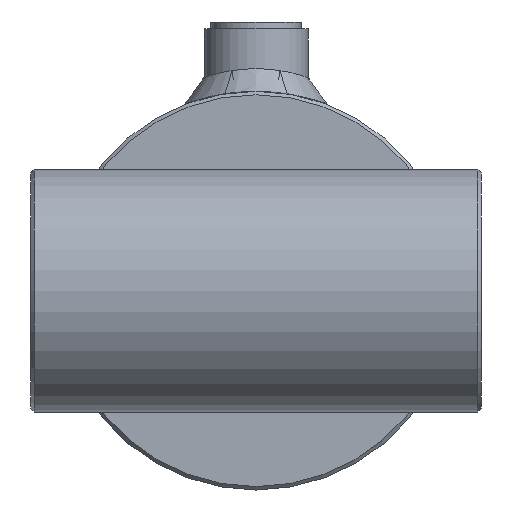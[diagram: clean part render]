
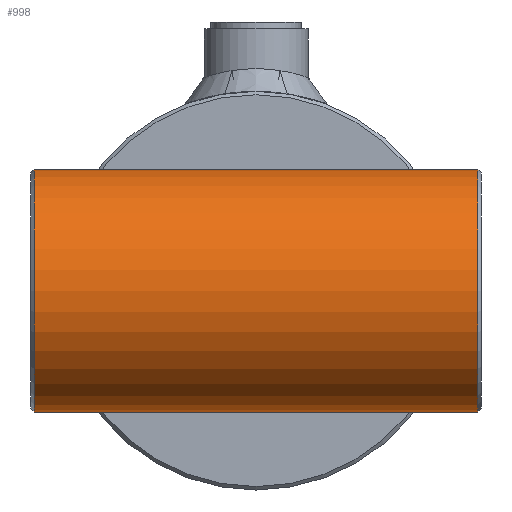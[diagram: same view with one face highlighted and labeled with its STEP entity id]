
A CAD part, left-side view. The second image highlights one B-rep face of the part: STEP entity #998.
In plain terms, the highlighted cylindrical face has radius 35 mm (diameter 70 mm), a full revolution.
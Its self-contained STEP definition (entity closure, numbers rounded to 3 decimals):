
#998 = ADVANCED_FACE( '', ( #1916, #1917 ), #1918, .T. );
#1916 = FACE_OUTER_BOUND( '', #5177, .T. );
#1917 = FACE_OUTER_BOUND( '', #5178, .T. );
#1918 = CYLINDRICAL_SURFACE( '', #5179, 35. );
#5177 = EDGE_LOOP( '', ( #10760 ) );
#5178 = EDGE_LOOP( '', ( #10761 ) );
#5179 = AXIS2_PLACEMENT_3D( '', #10762, #10763, #10764 );
#10760 = ORIENTED_EDGE( '', *, *, #12234, .T. );
#10761 = ORIENTED_EDGE( '', *, *, #12235, .T. );
#10762 = CARTESIAN_POINT( '', ( 0., -65., 0. ) );
#10763 = DIRECTION( '', ( 0., -1., 0. ) );
#10764 = DIRECTION( '', ( 0., 0., 1. ) );
#12234 = EDGE_CURVE( '', #13292, #13292, #13293, .F. );
#12235 = EDGE_CURVE( '', #13294, #13294, #13295, .T. );
#13292 = VERTEX_POINT( '', #15744 );
#13293 = CIRCLE( '', #15745, 35. );
#13294 = VERTEX_POINT( '', #15746 );
#13295 = CIRCLE( '', #15747, 35. );
#15744 = CARTESIAN_POINT( '', ( 0., 64., 35. ) );
#15745 = AXIS2_PLACEMENT_3D( '', #17619, #17620, #17621 );
#15746 = CARTESIAN_POINT( '', ( 0., -64., 35. ) );
#15747 = AXIS2_PLACEMENT_3D( '', #17622, #17623, #17624 );
#17619 = CARTESIAN_POINT( '', ( 0., 64., 0. ) );
#17620 = DIRECTION( '', ( 0., 1., 0. ) );
#17621 = DIRECTION( '', ( 0., 0., 1. ) );
#17622 = CARTESIAN_POINT( '', ( 0., -64., 0. ) );
#17623 = DIRECTION( '', ( 0., 1., 0. ) );
#17624 = DIRECTION( '', ( 0., 0., 1. ) );
